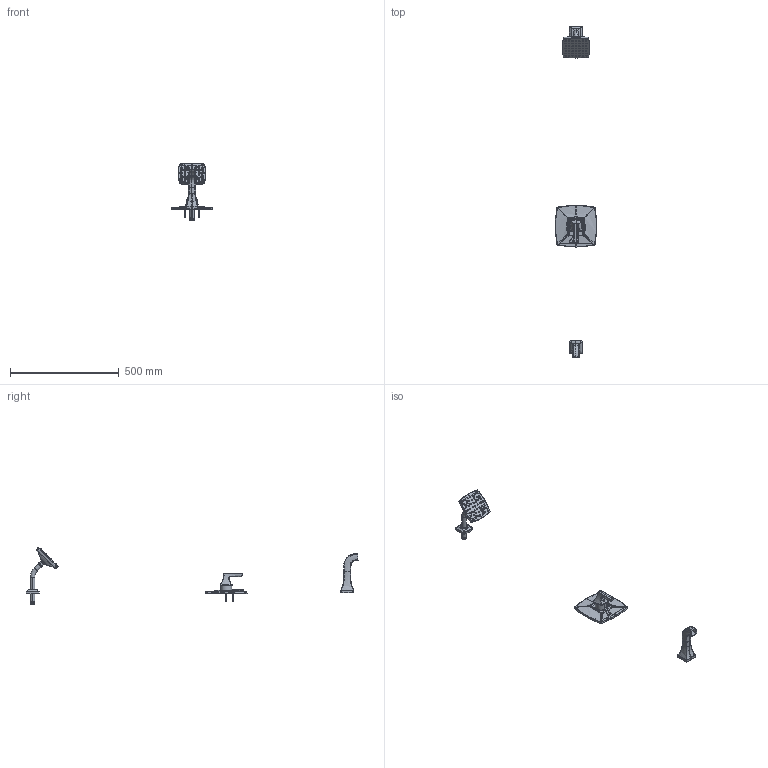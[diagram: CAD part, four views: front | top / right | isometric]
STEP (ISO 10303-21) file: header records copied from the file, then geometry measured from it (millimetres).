
FILE_DESCRIPTION (( 'STEP AP214' ), '1' );
FILE_NAME ('S5692TRM.STEP', '2025-01-02T06:39:24', ( '' ), ( '' ), 'SwSTEP 2.0', 'SolidWorks 2023', '' );
FILE_SCHEMA (( 'AUTOMOTIVE_DESIGN' ));
Products named in the file (1): S5692TRM
Bounding box: 190.5 x 1525.28 x 264.18 mm (x, y, z)
Surface area: 273850.5 mm2 (no closed solid volume)
Topology: 0 solids, 161 shells, 1008 faces, 4110 edges, 3177 vertices
Faces by surface type: bspline 390, plane 247, cylinder 229, cone 95, torus 26, sphere 21
Entity records: 161766 total; most frequent: CARTESIAN_POINT 133406, ORIENTED_EDGE 5750, DIRECTION 4217, EDGE_CURVE 4104, VERTEX_POINT 3176, B_SPLINE_CURVE_WITH_KNOTS 2037, AXIS2_PLACEMENT_3D 1609, EDGE_LOOP 1241
